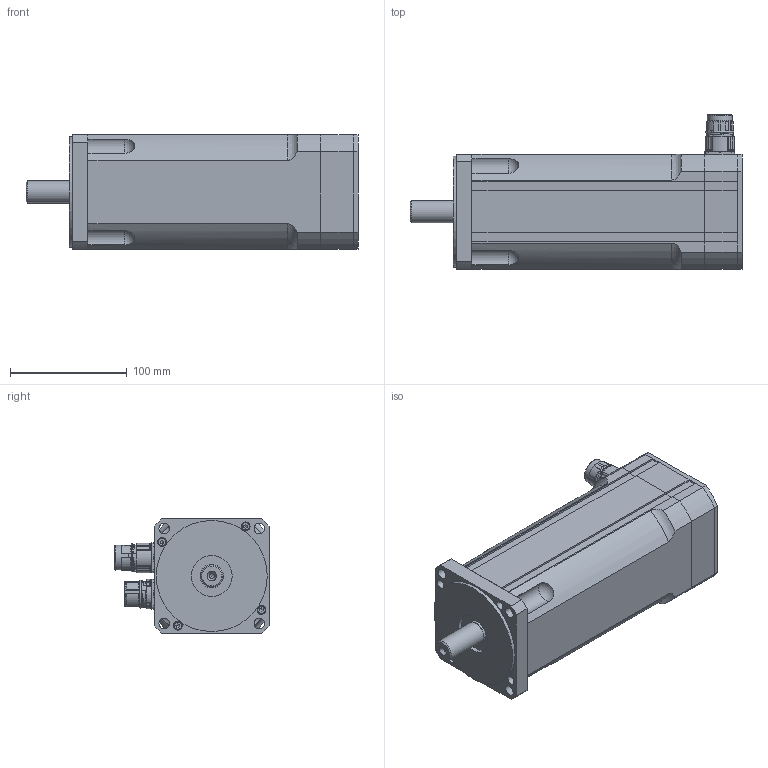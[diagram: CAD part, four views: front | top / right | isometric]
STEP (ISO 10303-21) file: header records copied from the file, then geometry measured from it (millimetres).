
FILE_DESCRIPTION(/* description */ (''),/* implementation_level */ '2;1');
FILE_NAME(/* name */ 'V:\4\N4083 00 B\3D Z\N4083 00 B Z_1130_6P_12P.stp',/* time_stamp */ '2017-06-28T10:16:53+02:00',/* author */ ('simik'),/* organization */ (''),/* preprocessor_version */ 'ST-DEVELOPER v16.13',/* originating_system */ 'Autodesk Inventor 2018',/* authorisation */ '');
FILE_SCHEMA (('AUTOMOTIVE_DESIGN { 1 0 10303 214 3 1 1 }'));
Products named in the file (7): N4083 00 B Z; N4083 00 B Z_front; N4083 00 B Z_1130; BEG_0200_6-polig, Stift; BEG_0200_6-polig, Stift_obal; BEG_0200_6-polig, Stift_vložka; 127344
Assembly tree (6 placements, depth 3):
  N4083 00 B Z
    N4083 00 B Z_front
    N4083 00 B Z_1130
    BEG_0200_6-polig, Stift
      BEG_0200_6-polig, Stift_obal
      BEG_0200_6-polig, Stift_vložka
    127344
Bounding box: 284 x 131.79 x 98.04 mm (x, y, z)
Volume: 830368.5 mm3; surface area: 228396.5 mm2
Topology: 5 solids, 5 shells, 1680 faces, 4103 edges, 2521 vertices
Faces by surface type: cylinder 734, plane 479, bspline 170, torus 137, cone 125, sphere 35
Full cylindrical faces by diameter (mm): 1 x12, 1.18 x12, 2 x6, 2.013 x2, 2.208 x8, 2.4 x8, 2.459 x4, 2.5 x8, 2.7 x8, 3.242 x4, 3.3 x3, 3.95 x4, 4 x4, 4.134 x1, 4.3 x4, 5 x8, 5.5 x1, 6.5 x3, 7 x4, 7.5 x4, 8 x4, 8.5 x4, 9 x4, 17.1 x1, 17.4 x1, 17.7 x1, 19 x1, 19.8 x1, 20 x5, 20.5 x2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
Entity records: 58032 total; most frequent: CARTESIAN_POINT 18533, DIRECTION 8093, ORIENTED_EDGE 7576, EDGE_CURVE 3714, AXIS2_PLACEMENT_3D 3429, VERTEX_POINT 2401, EDGE_LOOP 2073, CIRCLE 1768
